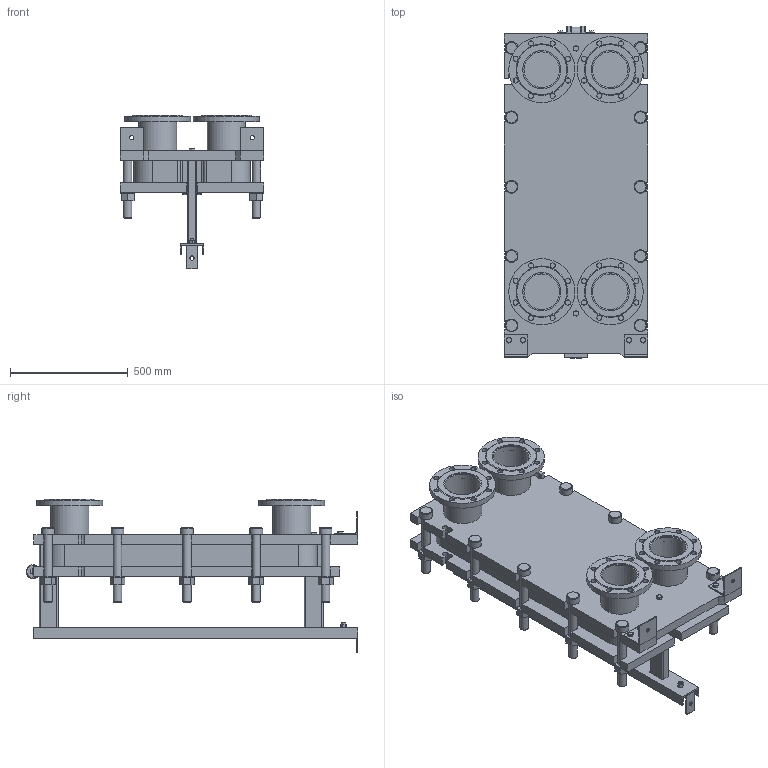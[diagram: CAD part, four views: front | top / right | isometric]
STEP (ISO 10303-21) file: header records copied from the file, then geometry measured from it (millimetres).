
FILE_DESCRIPTION(/* description */ (''),/* implementation_level */ '2;1');
FILE_NAME(/* name */ 'C:\Users\zhuro\Desktop\ENCO\TO\ЭН-041\ЭН-0,5-041-28-1.stp',/* time_stamp */ '2022-06-06T10:50:33+03:00',/* author */ ('zhuro'),/* organization */ (''),/* preprocessor_version */ 'ST-DEVELOPER v18.1',/* originating_system */ 'Autodesk Inventor 2022',/* authorisation */ '');
FILE_SCHEMA (('AUTOMOTIVE_DESIGN { 1 0 10303 214 3 1 1 }'));
Length unit declared in the file: millimetre
Products named in the file (1): ЭН-0,5-041-28-1
Bounding box: 610 x 1406.5 x 650 mm (x, y, z)
Volume: 129744968.8 mm3; surface area: 7436970.2 mm2
Topology: 52 solids, 52 shells, 711 faces, 1696 edges, 1094 vertices
Faces by surface type: plane 487, cylinder 177, cone 41, torus 6
Full cylindrical faces by diameter (mm): 8 x4, 10 x2, 16 x8, 18 x3, 22 x32, 36 x24, 50 x1, 54 x10, 60 x12, 151 x4, 161 x8, 280 x4
Entity records: 22667 total; most frequent: CARTESIAN_POINT 5230, DIRECTION 3644, ORIENTED_EDGE 3392, EDGE_CURVE 1696, AXIS2_PLACEMENT_3D 1272, LINE 1100, VECTOR 1100, VERTEX_POINT 1094
